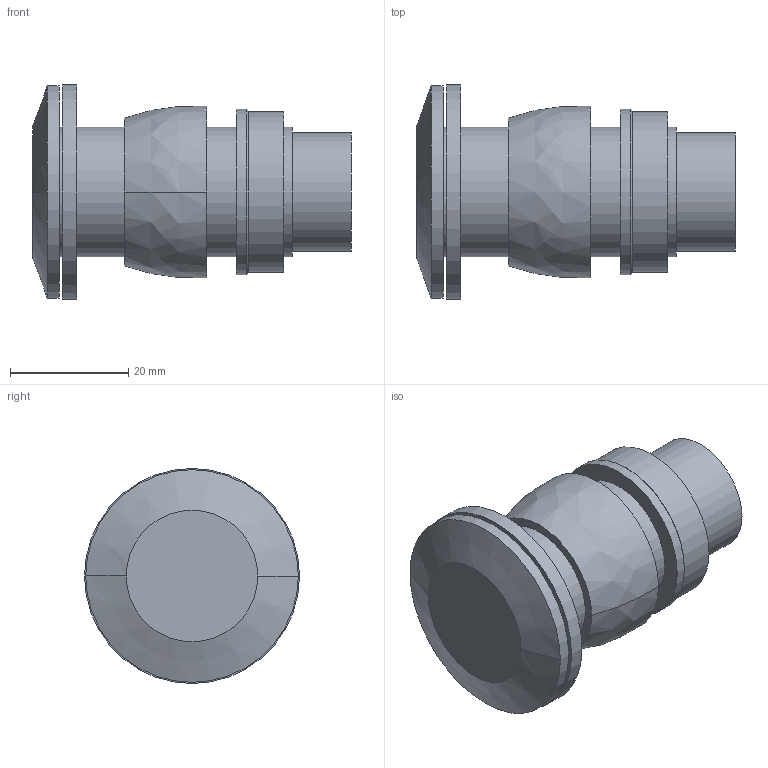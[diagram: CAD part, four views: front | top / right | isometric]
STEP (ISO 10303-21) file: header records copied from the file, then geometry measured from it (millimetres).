
FILE_DESCRIPTION(/* description */ (''),/* implementation_level */ '2;1');
FILE_NAME(/* name */ 'P:\CAD\Arbeitsbereich\Ventil - betätiger manuel\betätiger\BA223-NST.stp',/* time_stamp */ '2021-10-05T13:13:43+02:00',/* author */ ('Stefan.Hausmann'),/* organization */ (''),/* preprocessor_version */ 'ST-DEVELOPER v18.1',/* originating_system */ 'Autodesk Inventor 2022',/* authorisation */ '');
FILE_SCHEMA (('AUTOMOTIVE_DESIGN { 1 0 10303 214 3 1 1 }'));
Length unit declared in the file: millimetre
Products named in the file (1): BA223-NST
Bounding box: 54 x 36.4 x 36.4 mm (x, y, z)
Volume: 28522.7 mm3; surface area: 8360.9 mm2
Topology: 1 solids, 1 shells, 26 faces, 43 edges, 28 vertices
Faces by surface type: plane 11, cylinder 9, cone 4, bspline 2
Full cylindrical faces by diameter (mm): 20 x1, 22 x4, 27.2 x1, 28 x1, 36 x1, 36.4 x1
Entity records: 694 total; most frequent: CARTESIAN_POINT 142, DIRECTION 119, ORIENTED_EDGE 86, AXIS2_PLACEMENT_3D 53, EDGE_CURVE 43, EDGE_LOOP 35, CIRCLE 28, VERTEX_POINT 28
